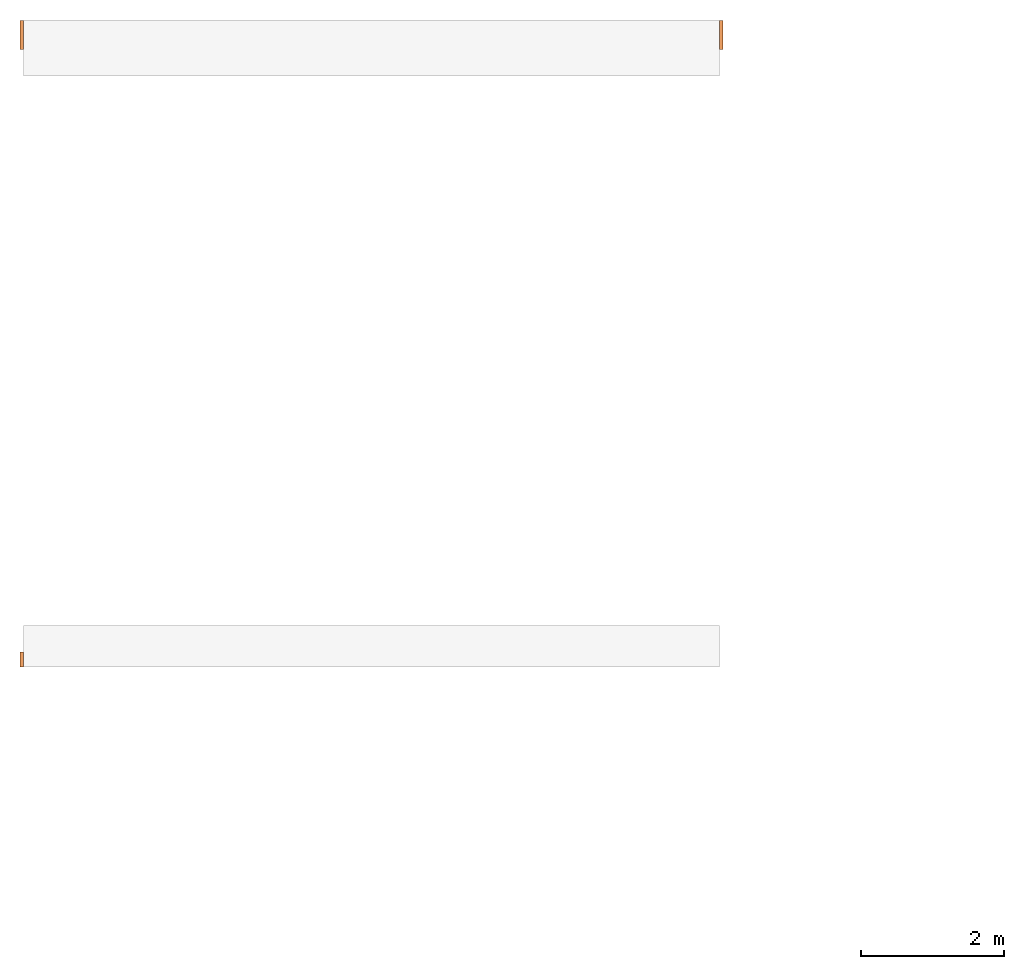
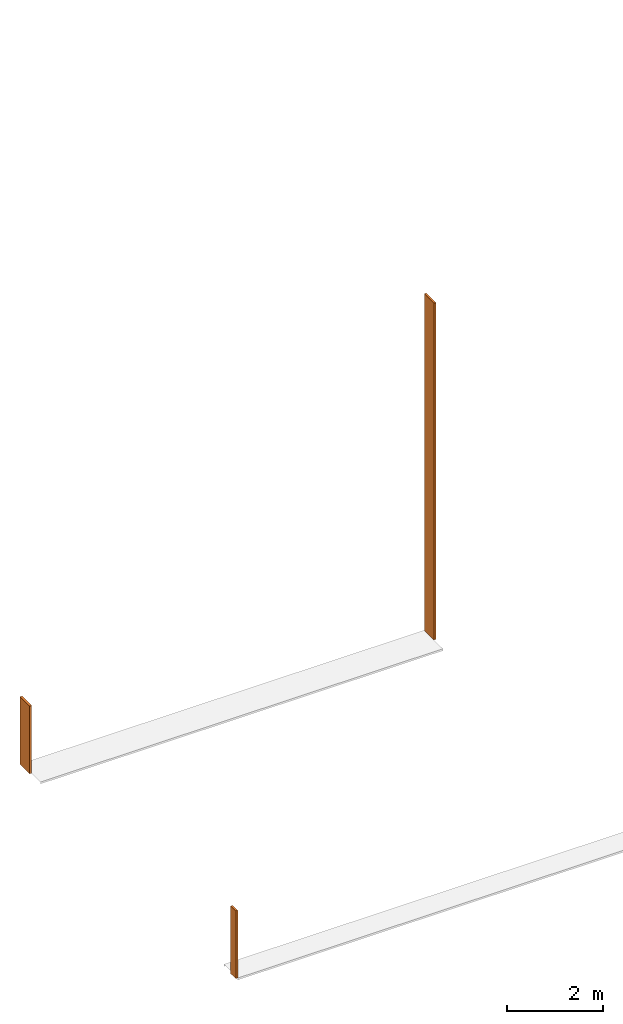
# One storey, part 2 of 3: 3 proxies.
"""IFC2X3 building model written with IfcOpenShell, lengths in centimetres."""

import ifcopenshell
import ifcopenshell.guid

model = None  # the IFC model being written
_history = None  # IfcOwnerHistory: only IFC2X3 demands one
_inside = {}  # id of a spatial element -> (the spatial element, [elements in it])
_under = {}  # id of a project, library or spatial element -> (it, [spatial elements below it])
_declared = {}  # id of a project -> (the project, [libraries it declares])
_typed = {}  # id of a type object -> (the type object, [elements of that type])
_made_of = {}  # id of a material, layer set ... -> (it, [elements and type objects made of it])


def new_model(schema):
    """Start an empty IFC model of exactly this schema.

    Asked for "IFC4X3", IfcOpenShell would pick the latest addendum, in which some entities
    have other attributes; the version numbers below select the first issue.
    IFC2X3 requires an IfcOwnerHistory on every rooted entity: one is made here for all.
    """
    global model, _history
    if schema == "IFC4X3":
        model = ifcopenshell.file(schema_version=(4, 3, 0, 0))
    else:
        model = ifcopenshell.file(schema=schema)
    _inside.clear()
    _under.clear()
    _declared.clear()
    _typed.clear()
    _made_of.clear()
    _history = None
    if model.schema == "IFC2X3":
        org = make("IfcOrganization", Name="unknown")
        user = make(
            "IfcPersonAndOrganization",
            ThePerson=make("IfcPerson", FamilyName="unknown"),
            TheOrganization=org,
        )
        app = make(
            "IfcApplication",
            ApplicationDeveloper=org,
            Version="unknown",
            ApplicationFullName="unknown",
            ApplicationIdentifier="unknown",
        )
        _history = make(
            "IfcOwnerHistory",
            OwningUser=user,
            OwningApplication=app,
            ChangeAction="ADDED",
            CreationDate=0,
        )
    return model


def make(cls, **values):
    """One entity of the class cls with the attributes given. An attribute that is None is left unset."""
    return model.create_entity(
        cls, **{name: value for name, value in values.items() if value is not None}
    )


def entity(cls, *values):
    """Any entity or typed value of the class cls, its attributes in the order of the schema. None: left unset."""
    e = model.create_entity(cls)
    for i, value in enumerate(values):
        if value is not None:
            e[i] = value
    return e


def rooted(cls, **values):
    """An entity with a GlobalId (a new one), such as an element, a storey or a relation."""
    return make(cls, GlobalId=ifcopenshell.guid.new(), OwnerHistory=_history, **values)


def si_unit(unit_type, name, prefix=None):
    """IfcSIUnit, for example si_unit("LENGTHUNIT", "METRE", prefix="MILLI")."""
    return make("IfcSIUnit", UnitType=unit_type, Prefix=prefix, Name=name)


def converted_unit(unit_type, name, factor, base, dimensions=None, offset=None):
    """IfcConversionBasedUnit, such as the inch: factor (a typed value) times the base unit."""
    return make(
        "IfcConversionBasedUnit"
        if offset is None
        else "IfcConversionBasedUnitWithOffset",
        ConversionOffset=offset,
        Dimensions=None
        if dimensions is None
        else entity("IfcDimensionalExponents", *dimensions),
        UnitType=unit_type,
        Name=name,
        ConversionFactor=make(
            "IfcMeasureWithUnit", ValueComponent=factor, UnitComponent=base
        ),
    )


def derived_unit(unit_type, elements):
    """IfcDerivedUnit: a product of units, each with its exponent."""
    return make(
        "IfcDerivedUnit",
        Elements=[
            make("IfcDerivedUnitElement", Unit=unit, Exponent=power)
            for unit, power in elements
        ],
        UnitType=unit_type,
    )


def assignment(units):
    """IfcUnitAssignment: the units of a project."""
    return None if units is None else make("IfcUnitAssignment", Units=units)


def point(xyz):
    """IfcCartesianPoint."""
    return None if xyz is None else make("IfcCartesianPoint", Coordinates=xyz)


def direction(xyz):
    """IfcDirection."""
    return None if xyz is None else make("IfcDirection", DirectionRatios=xyz)


def frame(location, z_axis=None, x_axis=None):
    """IfcAxis2Placement3D, a coordinate frame: its origin and axes. An axis left out is left unset."""
    return make(
        "IfcAxis2Placement3D",
        Location=point(location),
        Axis=direction(z_axis),
        RefDirection=direction(x_axis),
    )


def frame_2d(location, x_axis=None):
    """IfcAxis2Placement2D, a coordinate frame in the plane: its origin and x axis."""
    return make(
        "IfcAxis2Placement2D", Location=point(location), RefDirection=direction(x_axis)
    )


def origin():
    """The frame at (0, 0, 0) with its axes left unset."""
    return frame((0.0, 0.0, 0.0))


def origin_2d_with_axis():
    """The frame at (0, 0) in the plane with the x axis (1, 0) written out."""
    return frame_2d((0.0, 0.0), x_axis=(1.0, 0.0))


def place(relative_to, where):
    """IfcLocalPlacement: puts the frame where relative to a parent placement (None: the world)."""
    return make(
        "IfcLocalPlacement", PlacementRelTo=relative_to, RelativePlacement=where
    )


def context(
    kind, dimensions, precision=None, world=None, true_north=None, identifier=None
):
    """IfcGeometricRepresentationContext, for example the 3D "Model" context."""
    return make(
        "IfcGeometricRepresentationContext",
        ContextIdentifier=identifier,
        ContextType=kind,
        CoordinateSpaceDimension=dimensions,
        Precision=precision,
        WorldCoordinateSystem=world,
        TrueNorth=true_north,
    )


def subcontext(parent, identifier, kind, view, scale=None):
    """IfcGeometricRepresentationSubContext, for example "Body" below "Model"."""
    return make(
        "IfcGeometricRepresentationSubContext",
        ContextIdentifier=identifier,
        ContextType=kind,
        ParentContext=parent,
        TargetScale=scale,
        TargetView=view,
    )


def project(units=None, contexts=None):
    """IfcProject with its units and contexts."""
    return rooted(
        "IfcProject",
        Name="project",
        RepresentationContexts=contexts,
        UnitsInContext=assignment(units),
    )


def spatial(cls, under=None, at=None, **own):
    """A site, building, storey or space (cls), placed at a placement, below another one or the project."""
    s = rooted(cls, ObjectPlacement=at, **own)
    if under is not None:
        _under.setdefault(under.id(), (under, []))[1].append(s)
    return s


def profile(cls, at=None, kind="AREA", **sizes):
    """A parametric profile (cls). Its sizes go by their IFC names, for example OverallWidth=200.0."""
    return make(cls, ProfileType=kind, Position=at, **sizes)


def rectangle(**sizes):
    """IfcRectangleProfileDef."""
    return profile("IfcRectangleProfileDef", **sizes)


def extrude(swept, where, along, depth):
    """IfcExtrudedAreaSolid: the profile swept, set in the frame where, extruded along a direction by depth."""
    return make(
        "IfcExtrudedAreaSolid",
        SweptArea=swept,
        Position=where,
        ExtrudedDirection=direction(along),
        Depth=depth,
    )


def shape(context_of_items, identifier, shape_type, items):
    """IfcShapeRepresentation: the items that make up one representation, for example the "Body"."""
    return make(
        "IfcShapeRepresentation",
        ContextOfItems=context_of_items,
        RepresentationIdentifier=identifier,
        RepresentationType=shape_type,
        Items=items,
    )


def source(mapping_origin, context_of_items, identifier, shape_type, items):
    """IfcRepresentationMap: a shape defined once, which mapped items show again and again."""
    return make(
        "IfcRepresentationMap",
        MappingOrigin=mapping_origin,
        MappedRepresentation=shape(context_of_items, identifier, shape_type, items),
    )


def transform(
    local_origin,
    x_axis=None,
    y_axis=None,
    z_axis=None,
    scale=None,
    scale2=None,
    scale3=None,
    uniform=True,
):
    """IfcCartesianTransformationOperator3D, or its non-uniform kind. x_axis, y_axis, z_axis: its Axis1, 2, 3."""
    if uniform:
        return make(
            "IfcCartesianTransformationOperator3D",
            Axis1=direction(x_axis),
            Axis2=direction(y_axis),
            LocalOrigin=point(local_origin),
            Scale=scale,
            Axis3=direction(z_axis),
        )
    return make(
        "IfcCartesianTransformationOperator3DnonUniform",
        Axis1=direction(x_axis),
        Axis2=direction(y_axis),
        LocalOrigin=point(local_origin),
        Scale=scale,
        Axis3=direction(z_axis),
        Scale2=scale2,
        Scale3=scale3,
    )


def mapped(mapping_source, mapping_target):
    """IfcMappedItem: shows the shape of a source again, moved by a transform."""
    return make(
        "IfcMappedItem", MappingSource=mapping_source, MappingTarget=mapping_target
    )


def material(Name=None, Category=None):
    """IfcMaterial."""
    return make("IfcMaterial", Name=Name, Category=Category)


def made_of(thing, what):
    """Note that an element or type object is made of a material, layer set ...; save() writes the relation."""
    if what is not None:
        _made_of.setdefault(what.id(), (what, []))[1].append(thing)
    return thing


def type_object(cls, material=None, **own):
    """A type object (cls), such as IfcWallType, which elements share."""
    return made_of(rooted(cls, **own), material)


def type_shapes(of_type, sources):
    """Give a type object the sources (RepresentationMaps) that its elements show as mapped items."""
    of_type.RepresentationMaps = sources


def element(
    cls,
    number,
    at=None,
    inside=None,
    cuts=None,
    type_object=None,
    material=None,
    context=None,
    identifier="Body",
    shape_type=None,
    held_by="IfcProductDefinitionShape",
    body=None,
    shapes=None,
    **own,
):
    """One element of the class cls, such as IfcWall. Its Tag is "e" and its number.

    at: its placement. inside: the storey or other place that contains it. cuts: it is an
    opening in that element (IfcRelVoidsElement). A single representation is given by context,
    identifier, shape_type and body (its items); several are given by shapes. held_by: the class
    of the entity that holds the representations. save() writes the other relations.
    """
    e = rooted(cls, Tag="e%d" % number, ObjectPlacement=at, **own)
    if body is not None:
        shapes = [shape(context, identifier, shape_type, body)]
    if shapes is not None:
        e.Representation = make(held_by, Representations=shapes)
    if inside is not None:
        _inside.setdefault(inside.id(), (inside, []))[1].append(e)
    if cuts is not None:
        rooted(
            "IfcRelVoidsElement", RelatingBuildingElement=cuts, RelatedOpeningElement=e
        )
    if type_object is not None:
        _typed.setdefault(type_object.id(), (type_object, []))[1].append(e)
    return made_of(e, material)


def aggregate(whole, parts):
    """IfcRelAggregates: a whole, such as a stair, and the parts it consists of."""
    return rooted("IfcRelAggregates", RelatingObject=whole, RelatedObjects=parts)


def save(model, path):
    """Write the relations noted so far, then the file.

    IfcRelAggregates (storeys below a building ...), IfcRelContainedInSpatialStructure (elements
    in a storey), IfcRelDefinesByType, IfcRelAssociatesMaterial and IfcRelDeclares: one each for
    every whole, place, type object, material and project.
    """
    for whole, parts in _under.values():
        aggregate(whole, parts)
    for where, things in _inside.values():
        rooted(
            "IfcRelContainedInSpatialStructure",
            RelatedElements=things,
            RelatingStructure=where,
        )
    for kind, things in _typed.values():
        rooted("IfcRelDefinesByType", RelatedObjects=things, RelatingType=kind)
    for what, things in _made_of.values():
        rooted("IfcRelAssociatesMaterial", RelatedObjects=things, RelatingMaterial=what)
    for by, libraries in _declared.values():
        rooted("IfcRelDeclares", RelatingContext=by, RelatedDefinitions=libraries)
    model.write(path)


model = new_model("IFC2X3")

# Units and contexts
model_context = context("Model", 3, precision=0.001, world=origin(), true_north=direction((6.12303176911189e-17, 1.0)))
body_context = subcontext(model_context, "Body", "Model", "MODEL_VIEW")
ifc_project = project(units=[si_unit("LENGTHUNIT", "METRE", prefix="CENTI"), si_unit("AREAUNIT", "SQUARE_METRE"), si_unit("VOLUMEUNIT", "CUBIC_METRE"), converted_unit("PLANEANGLEUNIT", "DEGREE", entity("IfcRatioMeasure", 0.0174532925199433), si_unit("PLANEANGLEUNIT", "RADIAN"), dimensions=[0, 0, 0, 0, 0, 0, 0]), si_unit("MASSUNIT", "GRAM", prefix="KILO"), derived_unit("MASSDENSITYUNIT", [(si_unit("MASSUNIT", "GRAM", prefix="KILO"), 1), (si_unit("LENGTHUNIT", "METRE"), -3)]), si_unit("TIMEUNIT", "SECOND"), si_unit("FREQUENCYUNIT", "HERTZ"), si_unit("THERMODYNAMICTEMPERATUREUNIT", "DEGREE_CELSIUS"), derived_unit("THERMALTRANSMITTANCEUNIT", [(si_unit("MASSUNIT", "GRAM", prefix="KILO"), 1), (si_unit("THERMODYNAMICTEMPERATUREUNIT", "KELVIN"), -1), (si_unit("TIMEUNIT", "SECOND"), -3)]), derived_unit("VOLUMETRICFLOWRATEUNIT", [(si_unit("LENGTHUNIT", "METRE"), 3), (si_unit("TIMEUNIT", "SECOND"), -1)]), si_unit("ELECTRICCURRENTUNIT", "AMPERE"), si_unit("ELECTRICVOLTAGEUNIT", "VOLT"), si_unit("POWERUNIT", "WATT"), si_unit("FORCEUNIT", "NEWTON", prefix="KILO"), si_unit("ILLUMINANCEUNIT", "LUX"), si_unit("LUMINOUSFLUXUNIT", "LUMEN"), si_unit("LUMINOUSINTENSITYUNIT", "CANDELA"), derived_unit("USERDEFINED", [(si_unit("MASSUNIT", "GRAM", prefix="KILO"), -1), (si_unit("LENGTHUNIT", "METRE"), -2), (si_unit("TIMEUNIT", "SECOND"), 3), (si_unit("LUMINOUSFLUXUNIT", "LUMEN"), 1)]), derived_unit("LINEARVELOCITYUNIT", [(si_unit("LENGTHUNIT", "METRE"), 1), (si_unit("TIMEUNIT", "SECOND"), -1)]), si_unit("PRESSUREUNIT", "PASCAL"), derived_unit("USERDEFINED", [(si_unit("LENGTHUNIT", "METRE"), -2), (si_unit("MASSUNIT", "GRAM", prefix="KILO"), 1), (si_unit("TIMEUNIT", "SECOND"), -2)])], contexts=[model_context])

# Site, building, storey
site_placement = place(None, frame((-2781.94577612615, 7442.24238424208, 0.0)))
site = spatial("IfcSite", under=ifc_project, at=site_placement, Name="Default", CompositionType="ELEMENT")
building_placement = place(site_placement, origin())
building = spatial("IfcBuilding", under=site, at=building_placement, CompositionType="ELEMENT")
storey_placement = place(building_placement, frame((0.0, 0.0, 317.500000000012)))
storey = spatial("IfcBuildingStorey", under=building, at=storey_placement, Name="Toiture - Infirmerie", CompositionType="ELEMENT", Elevation=317.500000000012)

# Proxies
ifc_material = material(Name="Aluminium")
building_element_proxy_type_1 = type_object("IfcBuildingElementProxyType", Name="Menneau extrémité façade", PredefinedType="NOTDEFINED", material=ifc_material)
shared_shape_1 = source(origin(), body_context, "Body", "SweptSolid", [
    extrude(rectangle(XDim=4.99999684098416, YDim=40.0000000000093, at=frame_2d((0.0, 1.08357767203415e-13), x_axis=(1.0, 0.0))), frame((-392.499881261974, -1070.0, 317.5), z_axis=(0.0, 0.0, 1.0), x_axis=(-1.0, 0.0, 0.0)), (0.0, 0.0, 1.0), 858.500000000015),
])
type_shapes(building_element_proxy_type_1, [shared_shape_1])
proxy_1_placement = place(storey_placement, frame((-8034.4999979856, 1100.0, -317.500000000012)))
element("IfcBuildingElementProxy", 1, at=proxy_1_placement, inside=storey, type_object=building_element_proxy_type_1, material=ifc_material, Name="Menneau extrémité façade3:Menneau extrémité façade", ObjectType="Menneau extrémité façade3:Menneau extrémité façade", context=body_context, shape_type="MappedRepresentation", body=[
    mapped(shared_shape_1, transform((0.0, 0.0, 0.0), scale=1.0)),
])
building_element_proxy_type_2 = type_object("IfcBuildingElementProxyType", Name="Menneau extrémité façade", PredefinedType="NOTDEFINED", material=ifc_material)
shared_shape_2 = source(origin(), body_context, "Body", "SweptSolid", [
    extrude(rectangle(XDim=4.99999684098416, YDim=40.0000000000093, at=frame_2d((0.0, 1.08357767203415e-13), x_axis=(1.0, 0.0))), frame((-392.499881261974, -1070.0, 317.5), z_axis=(0.0, 0.0, 1.0), x_axis=(-1.0, 0.0, 0.0)), (0.0, 0.0, 1.0), 172.499999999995),
])
type_shapes(building_element_proxy_type_2, [shared_shape_2])
proxy_2_placement = place(storey_placement, frame((-9009.4999948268, 1100.0, -317.500000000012)))
element("IfcBuildingElementProxy", 2, at=proxy_2_placement, inside=storey, type_object=building_element_proxy_type_2, material=ifc_material, Name="Menneau extrémité façade5:Menneau extrémité façade", ObjectType="Menneau extrémité façade5:Menneau extrémité façade", context=body_context, shape_type="MappedRepresentation", body=[
    mapped(shared_shape_2, transform((0.0, 0.0, 0.0), scale=1.0)),
])
building_element_proxy_type_3 = type_object("IfcBuildingElementProxyType", Name="Menneau extrémité façade", PredefinedType="NOTDEFINED", material=ifc_material)
shared_shape_3 = source(origin(), body_context, "Body", "SweptSolid", [
    extrude(rectangle(XDim=4.99999684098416, YDim=21.0000000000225, at=origin_2d_with_axis()), frame((-392.499881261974, -1079.4999999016, 317.5), z_axis=(0.0, 0.0, 1.0), x_axis=(-1.0, 0.0, 0.0)), (0.0, 0.0, 1.0), 172.499999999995),
])
type_shapes(building_element_proxy_type_3, [shared_shape_3])
proxy_3_placement = place(storey_placement, frame((-9009.4999948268, 238.951498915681, -317.500000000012)))
element("IfcBuildingElementProxy", 3, at=proxy_3_placement, inside=storey, type_object=building_element_proxy_type_3, material=ifc_material, Name="Menneau extrémité façade6:Menneau extrémité façade", ObjectType="Menneau extrémité façade6:Menneau extrémité façade", context=body_context, shape_type="MappedRepresentation", body=[
    mapped(shared_shape_3, transform((0.0, 0.0, 0.0), scale=1.0)),
])

save(model, "model.ifc")
